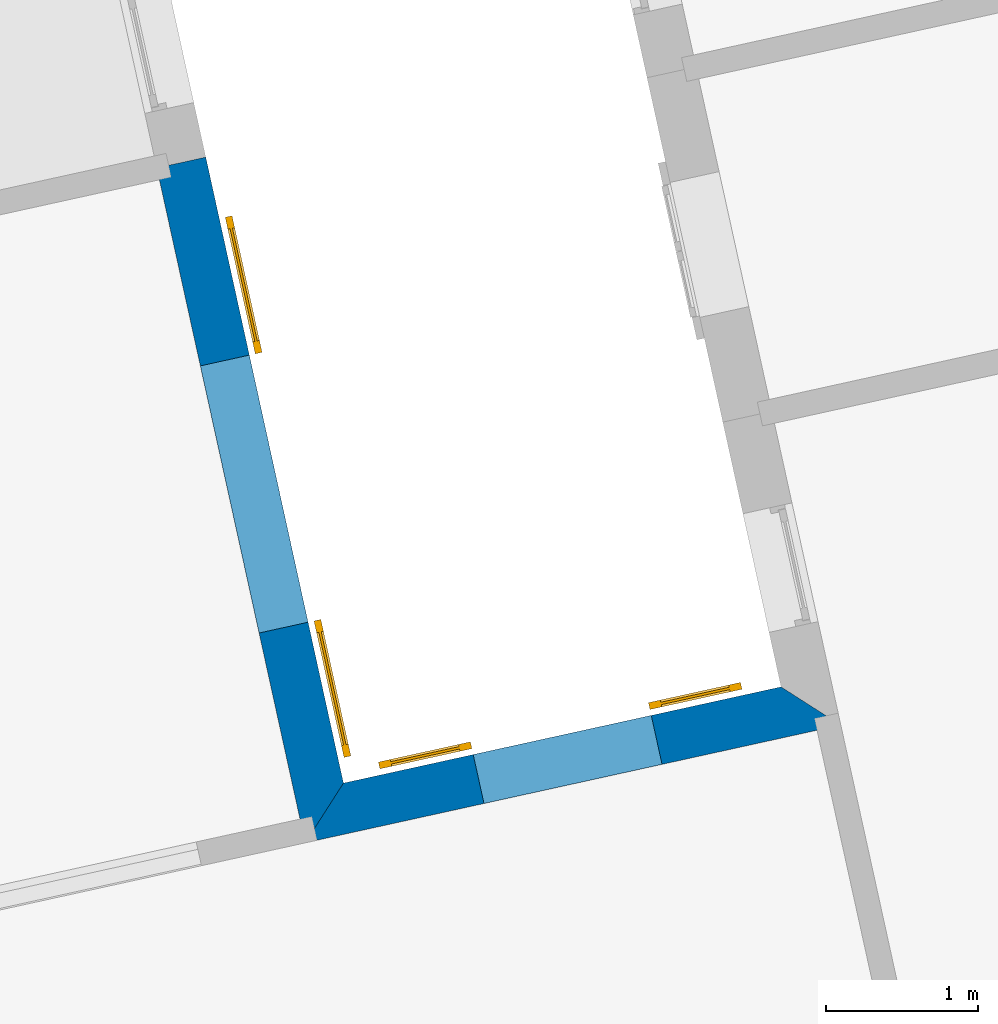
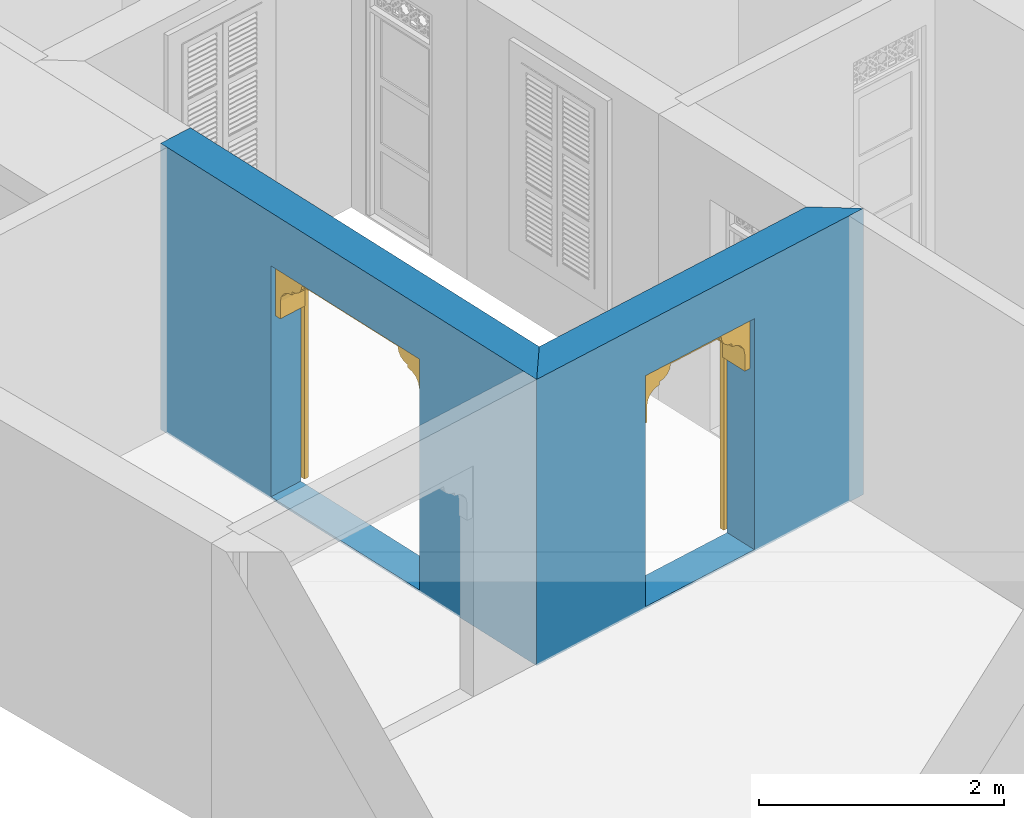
# One storey, part 2 of 14: 2 doors, 2 walls, 2 openings.
"""IFC4 building model written with IfcOpenShell, lengths in metres."""

from ifc_helpers import new_model, si_unit, frame, origin, origin_with_axes, place, context, subcontext, project, spatial, polyline, outline, extrude, faceted_brep, source, transform, mapped, material, layer, layer_set, layer_usage, type_object, type_shapes, element, fill, save


model = new_model("IFC4")

# Units and contexts
model_context = context("Model", 3, world=origin_with_axes())
body_context = subcontext(model_context, "Body", "Model", "MODEL_VIEW")
ifc_project = project(units=[si_unit("PLANEANGLEUNIT", "RADIAN"), si_unit("MASSUNIT", "GRAM", prefix="KILO"), si_unit("FORCEUNIT", "NEWTON", prefix="KILO"), si_unit("LENGTHUNIT", "METRE"), si_unit("AREAUNIT", "SQUARE_METRE"), si_unit("VOLUMEUNIT", "CUBIC_METRE")], contexts=[model_context, model_context])

# Site, building, storey
site_placement = place(None, origin_with_axes())
site = spatial("IfcSite", under=ifc_project, at=site_placement, Name="Site plot-2", CompositionType="ELEMENT")
building_placement = place(None, origin_with_axes())
building = spatial("IfcBuilding", under=site, at=building_placement, Name="Building plot-2", CompositionType="ELEMENT")
storey_placement = place(None, origin_with_axes())
storey = spatial("IfcBuildingStorey", under=building, at=storey_placement, Name="plot-2 0", CompositionType="ELEMENT", Elevation=0.0)

# Wall, opening, door
ifc_material = material(Name="Masonry")
ifc_layer = layer(ifc_material, 0.33, ventilated=False)
ifc_layer_set = layer_set([ifc_layer], Name="exterior_0.08_0.25")
ifc_layer_usage = layer_usage(ifc_layer_set, "AXIS2", "POSITIVE", -0.25)
wall_type = type_object("IfcWallType", Name="exterior_0.08_0.25", PredefinedType="SOLIDWALL", material=ifc_layer_set)
wall_1_placement = place(storey_placement, frame((16.7741128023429, 7.45730474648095, 0.0), z_axis=(0.0, 0.0, 1.0), x_axis=(-0.976656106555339, -0.214808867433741, 0.0)))
wall_1 = element("IfcWall", 1, at=wall_1_placement, inside=storey, type_object=wall_type, material=ifc_layer_usage, Name="exterior", context=body_context, shape_type="SweptSolid", body=[
    extrude(outline(polyline([(-0.0800000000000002, 0.0799999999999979), (0.250000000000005, -0.249999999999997), (3.19892127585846, -0.250000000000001), (3.52892127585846, 0.0799999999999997), (-0.0800000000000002, 0.0799999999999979)])), origin_with_axes(), (0.0, 0.0, 1.0), 2.85),
])
opening_1_placement = place(wall_1_placement, frame((1.12446063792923, 0.0, 0.02)))
opening_1 = element("IfcOpeningElement", 2, at=opening_1_placement, cuts=wall_1, Name="My Opening", ObjectType="Opening", context=body_context, shape_type="SweptSolid", body=[
    extrude(outline(polyline([(0.0, -0.27), (1.2, -0.270000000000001), (1.2, 1.1), (-2.22044604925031e-16, 1.1), (0.0, -0.27)])), origin_with_axes(), (0.0, 0.0, 1.0), 2.3),
])
door_type_1 = type_object("IfcDoorType", Name="arch-1200x2300", OperationType="SINGLE_SWING_LEFT", PredefinedType="NOTDEFINED")
shared_shape_1 = source(origin(), body_context, "Body", "Brep", [
    faceted_brep([(-0.08, -0.02, 0.08), (-0.08, -0.02, 0.0), (-0.54, -0.02, 0.0), (-0.54, -0.02, 0.08), (-0.62, -0.02, 0.0), (-0.62, -0.02, 0.08), (-0.54, -0.035, 0.08), (-0.08, -0.035, 0.08), (0.0, -0.02, 0.08), (0.0, -0.02, 0.0), (-0.08, -0.066, 0.0), (-0.54, -0.066, 0.0), (-0.62, -0.066, 0.0), (-0.62, -0.066, 0.08), (-0.54, -0.02, 0.743333), (-0.62, -0.02, 0.743333), (-0.54, -0.035, 0.743333), (-0.08, -0.035, 0.743333), (-0.08, -0.02, 0.743333), (0.0, -0.02, 0.743333), (0.0, -0.066, 0.08), (0.0, -0.066, 0.0), (-0.54, -0.066, 0.08), (-0.08, -0.066, 0.08), (-0.62, -0.066, 0.743333), (-0.54, -0.02, 0.823333), (-0.62, -0.02, 0.823333), (0.0, -0.066, 0.743333), (0.0, -0.02, 0.823333), (-0.08, -0.02, 0.823333), (-0.08, -0.051, 0.08), (-0.54, -0.051, 0.08), (-0.54, -0.066, 0.743333), (-0.62, -0.066, 0.823333), (-0.54, -0.02, 1.486667), (-0.62, -0.02, 1.486667), (0.0, -0.066, 0.823333), (-0.08, -0.066, 0.743333), (0.0, -0.02, 1.486667), (-0.08, -0.02, 1.486667), (-0.08, -0.051, 0.743333), (-0.54, -0.051, 0.743333), (-0.54, -0.066, 0.823333), (-0.62, -0.066, 1.486667), (-0.54, -0.035, 0.823333), (-0.08, -0.035, 0.823333), (-0.54, -0.035, 1.486667), (-0.54, -0.02, 1.566667), (-0.62, -0.02, 1.566667), (0.0, -0.066, 1.486667), (-0.08, -0.066, 0.823333), (-0.08, -0.035, 1.486667), (0.0, -0.02, 1.566667), (-0.08, -0.02, 1.566667), (-0.54, -0.066, 1.486667), (-0.62, -0.066, 1.566667), (-0.54, -0.02, 2.23), (-0.62, -0.02, 2.23), (0.0, -0.066, 1.566667), (-0.08, -0.066, 1.486667), (0.0, -0.02, 2.23), (-0.08, -0.02, 2.23), (-0.08, -0.051, 0.823333), (-0.54, -0.051, 0.823333), (-0.54, -0.051, 1.486667), (-0.54, -0.066, 1.566667), (-0.62, -0.066, 2.23), (-0.54, -0.035, 1.566667), (-0.08, -0.035, 1.566667), (-0.54, -0.035, 2.23), (-0.54, -0.02, 2.31), (-0.62, -0.02, 2.31), (0.0, -0.066, 2.23), (-0.08, -0.066, 1.566667), (-0.08, -0.051, 1.486667), (-0.08, -0.035, 2.23), (0.0, -0.02, 2.31), (-0.08, -0.02, 2.31), (-0.54, -0.066, 2.23), (-0.62, -0.066, 2.31), (-0.54, -0.066, 2.31), (0.0, -0.066, 2.31), (-0.08, -0.066, 2.23), (-0.08, -0.066, 2.31), (-0.08, -0.051, 1.566667), (-0.54, -0.051, 1.566667), (-0.54, -0.051, 2.23), (-0.08, -0.051, 2.23), (1.74, -0.02, 0.08), (1.74, -0.02, 0.0), (1.28, -0.02, 0.0), (1.28, -0.02, 0.08), (1.82, -0.02, 0.08), (1.82, -0.02, 0.0), (1.28, -0.035, 0.08), (1.74, -0.035, 0.08), (1.2, -0.02, 0.0), (1.2, -0.02, 0.08), (1.74, -0.066, 0.0), (1.28, -0.066, 0.0), (1.82, -0.066, 0.08), (1.82, -0.066, 0.0), (1.82, -0.02, 0.743333), (1.74, -0.02, 0.743333), (1.74, -0.035, 0.743333), (1.28, -0.035, 0.743333), (1.28, -0.02, 0.743333), (1.2, -0.02, 0.743333), (1.2, -0.066, 0.0), (1.2, -0.066, 0.08), (1.28, -0.066, 0.08), (1.74, -0.066, 0.08), (1.82, -0.066, 0.743333), (1.82, -0.02, 0.823333), (1.74, -0.02, 0.823333), (1.2, -0.066, 0.743333), (1.28, -0.02, 0.823333), (1.2, -0.02, 0.823333), (1.74, -0.051, 0.08), (1.28, -0.051, 0.08), (1.74, -0.066, 0.743333), (1.82, -0.066, 0.823333), (1.82, -0.02, 1.486667), (1.74, -0.02, 1.486667), (1.2, -0.066, 0.823333), (1.28, -0.066, 0.743333), (1.28, -0.02, 1.486667), (1.2, -0.02, 1.486667), (1.28, -0.051, 0.743333), (1.74, -0.051, 0.743333), (1.74, -0.066, 0.823333), (1.82, -0.066, 1.486667), (1.28, -0.035, 0.823333), (1.74, -0.035, 0.823333), (1.74, -0.035, 1.486667), (1.82, -0.02, 1.566667), (1.74, -0.02, 1.566667), (1.2, -0.066, 1.486667), (1.28, -0.066, 0.823333), (1.28, -0.035, 1.486667), (1.28, -0.02, 1.566667), (1.2, -0.02, 1.566667), (1.74, -0.066, 1.486667), (1.82, -0.066, 1.566667), (1.82, -0.02, 2.23), (1.74, -0.02, 2.23), (1.2, -0.066, 1.566667), (1.28, -0.066, 1.486667), (1.28, -0.02, 2.23), (1.2, -0.02, 2.23), (1.74, -0.051, 0.823333), (1.28, -0.051, 0.823333), (1.74, -0.051, 1.486667), (1.74, -0.066, 1.566667), (1.82, -0.066, 2.23), (1.28, -0.035, 1.566667), (1.74, -0.035, 1.566667), (1.74, -0.035, 2.23), (1.82, -0.02, 2.31), (1.74, -0.02, 2.31), (1.2, -0.066, 2.23), (1.28, -0.066, 1.566667), (1.28, -0.051, 1.486667), (1.28, -0.035, 2.23), (1.28, -0.02, 2.31), (1.2, -0.02, 2.31), (1.74, -0.066, 2.23), (1.82, -0.066, 2.31), (1.74, -0.066, 2.31), (1.2, -0.066, 2.31), (1.28, -0.066, 2.23), (1.28, -0.066, 2.31), (1.74, -0.051, 1.566667), (1.28, -0.051, 1.566667), (1.74, -0.051, 2.23), (1.28, -0.051, 2.23), (1.2, 0.03, 1.78), (1.2, 0.03, 1.95), (1.14, 0.03, 1.95), (1.14, 0.03, 1.78), (1.14, 0.3, 1.95), (1.14, 0.3, 1.78), (1.2, 0.03, 2.12), (1.129, 0.03, 2.004), (1.2, 0.3, 1.78), (1.2, 0.3, 1.95), (1.129, 0.3, 2.004), (1.099, 0.03, 2.049), (1.2, 0.3, 2.12), (1.099, 0.3, 2.049), (1.054, 0.03, 2.079), (1.2, 0.3, 2.29), (1.2, 0.03, 2.29), (1.054, 0.3, 2.079), (1.0, 0.03, 2.09), (1.0, 0.03, 2.12), (0.954, 0.03, 2.129), (0.88, 0.3, 2.29), (0.88, 0.03, 2.29), (1.0, 0.3, 2.12), (0.954, 0.3, 2.129), (1.0, 0.3, 2.09), (0.915, 0.03, 2.155), (0.889, 0.3, 2.194), (0.88, 0.3, 2.24), (0.88, 0.03, 2.24), (0.889, 0.03, 2.194), (0.915, 0.3, 2.155), (0.06, 0.03, 1.78), (0.06, 0.03, 1.95), (0.0, 0.03, 1.95), (0.0, 0.03, 1.78), (0.06, 0.3, 1.78), (0.06, 0.3, 1.95), (0.071, 0.03, 2.004), (0.0, 0.03, 2.12), (0.0, 0.3, 1.95), (0.0, 0.3, 1.78), (0.071, 0.3, 2.004), (0.101, 0.03, 2.049), (0.0, 0.3, 2.12), (0.101, 0.3, 2.049), (0.146, 0.03, 2.079), (0.0, 0.03, 2.29), (0.0, 0.3, 2.29), (0.146, 0.3, 2.079), (0.2, 0.03, 2.12), (0.2, 0.03, 2.09), (0.246, 0.03, 2.129), (0.32, 0.03, 2.29), (0.32, 0.3, 2.29), (0.246, 0.3, 2.129), (0.2, 0.3, 2.12), (0.2, 0.3, 2.09), (0.285, 0.03, 2.155), (0.32, 0.3, 2.24), (0.311, 0.3, 2.194), (0.311, 0.03, 2.194), (0.32, 0.03, 2.24), (0.285, 0.3, 2.155)], [[[0, 1, 2, 3]], [[4, 5, 3, 2]], [[0, 3, 6, 7]], [[1, 0, 8, 9]], [[2, 1, 10, 11]], [[5, 4, 12, 13]], [[14, 3, 5, 15]], [[4, 2, 11, 12]], [[3, 14, 16, 6]], [[6, 16, 17, 7]], [[18, 0, 7, 17]], [[0, 18, 19, 8]], [[9, 8, 20, 21]], [[1, 9, 21, 10]], [[22, 11, 10, 23]], [[13, 12, 11, 22]], [[15, 5, 13, 24]], [[25, 14, 15, 26]], [[14, 18, 17, 16]], [[8, 19, 27, 20]], [[28, 19, 18, 29]], [[23, 10, 21, 20]], [[22, 23, 30, 31]], [[22, 32, 24, 13]], [[26, 15, 24, 33]], [[29, 18, 14, 25]], [[34, 25, 26, 35]], [[19, 28, 36, 27]], [[20, 27, 37, 23]], [[38, 28, 29, 39]], [[23, 37, 40, 30]], [[41, 31, 30, 40]], [[32, 22, 31, 41]], [[32, 42, 33, 24]], [[35, 26, 33, 43]], [[29, 25, 44, 45]], [[25, 34, 46, 44]], [[47, 34, 35, 48]], [[28, 38, 49, 36]], [[27, 36, 50, 37]], [[39, 29, 45, 51]], [[52, 38, 39, 53]], [[37, 32, 41, 40]], [[37, 50, 42, 32]], [[42, 54, 43, 33]], [[48, 35, 43, 55]], [[44, 46, 51, 45]], [[34, 39, 51, 46]], [[34, 47, 53, 39]], [[56, 47, 48, 57]], [[38, 52, 58, 49]], [[36, 49, 59, 50]], [[60, 52, 53, 61]], [[42, 50, 62, 63]], [[54, 42, 63, 64]], [[54, 65, 55, 43]], [[57, 48, 55, 66]], [[53, 47, 67, 68]], [[47, 56, 69, 67]], [[70, 56, 57, 71]], [[52, 60, 72, 58]], [[49, 58, 73, 59]], [[50, 59, 74, 62]], [[61, 53, 68, 75]], [[76, 60, 61, 77]], [[64, 63, 62, 74]], [[59, 54, 64, 74]], [[65, 54, 59, 73]], [[65, 78, 66, 55]], [[71, 57, 66, 79]], [[67, 69, 75, 68]], [[56, 61, 75, 69]], [[77, 61, 56, 70]], [[70, 71, 79, 80]], [[60, 76, 81, 72]], [[58, 72, 82, 73]], [[76, 77, 83, 81]], [[65, 73, 84, 85]], [[78, 65, 85, 86]], [[78, 80, 79, 66]], [[77, 70, 80, 83]], [[72, 81, 83, 82]], [[73, 82, 87, 84]], [[86, 85, 84, 87]], [[82, 78, 86, 87]], [[82, 83, 80, 78]], [[88, 89, 90, 91]], [[89, 88, 92, 93]], [[94, 95, 88, 91]], [[96, 97, 91, 90]], [[98, 99, 90, 89]], [[100, 101, 93, 92]], [[102, 92, 88, 103]], [[101, 98, 89, 93]], [[95, 104, 103, 88]], [[94, 105, 104, 95]], [[105, 94, 91, 106]], [[97, 107, 106, 91]], [[108, 109, 97, 96]], [[99, 108, 96, 90]], [[110, 99, 98, 111]], [[111, 98, 101, 100]], [[112, 100, 92, 102]], [[113, 102, 103, 114]], [[104, 105, 106, 103]], [[109, 115, 107, 97]], [[116, 106, 107, 117]], [[109, 108, 99, 110]], [[118, 119, 110, 111]], [[100, 112, 120, 111]], [[121, 112, 102, 113]], [[114, 103, 106, 116]], [[122, 113, 114, 123]], [[115, 124, 117, 107]], [[110, 125, 115, 109]], [[126, 116, 117, 127]], [[119, 128, 125, 110]], [[128, 119, 118, 129]], [[129, 118, 111, 120]], [[112, 121, 130, 120]], [[131, 121, 113, 122]], [[132, 133, 114, 116]], [[133, 134, 123, 114]], [[135, 122, 123, 136]], [[124, 137, 127, 117]], [[125, 138, 124, 115]], [[139, 132, 116, 126]], [[140, 126, 127, 141]], [[128, 129, 120, 125]], [[120, 130, 138, 125]], [[121, 131, 142, 130]], [[143, 131, 122, 135]], [[132, 139, 134, 133]], [[134, 139, 126, 123]], [[126, 140, 136, 123]], [[144, 135, 136, 145]], [[137, 146, 141, 127]], [[138, 147, 137, 124]], [[148, 140, 141, 149]], [[150, 151, 138, 130]], [[152, 150, 130, 142]], [[131, 143, 153, 142]], [[154, 143, 135, 144]], [[155, 156, 136, 140]], [[156, 157, 145, 136]], [[158, 144, 145, 159]], [[146, 160, 149, 141]], [[147, 161, 146, 137]], [[151, 162, 147, 138]], [[163, 155, 140, 148]], [[164, 148, 149, 165]], [[162, 151, 150, 152]], [[162, 152, 142, 147]], [[161, 147, 142, 153]], [[143, 154, 166, 153]], [[167, 154, 144, 158]], [[155, 163, 157, 156]], [[157, 163, 148, 145]], [[159, 145, 148, 164]], [[168, 167, 158, 159]], [[160, 169, 165, 149]], [[161, 170, 160, 146]], [[169, 171, 164, 165]], [[172, 173, 161, 153]], [[174, 172, 153, 166]], [[154, 167, 168, 166]], [[171, 168, 159, 164]], [[170, 171, 169, 160]], [[173, 175, 170, 161]], [[175, 173, 172, 174]], [[175, 174, 166, 170]], [[166, 168, 171, 170]], [[176, 177, 178, 179]], [[180, 181, 179, 178]], [[177, 182, 183, 178]], [[177, 176, 184, 185]], [[181, 184, 176, 179]], [[181, 180, 185, 184]], [[186, 180, 178, 183]], [[182, 187, 183]], [[182, 177, 185, 188]], [[180, 186, 188, 185]], [[189, 186, 183, 187]], [[182, 190, 187]], [[188, 191, 192, 182]], [[188, 186, 189]], [[193, 189, 187, 190]], [[194, 190, 182, 195]], [[182, 192, 196, 195]], [[192, 191, 197, 198]], [[199, 200, 191, 188]], [[188, 189, 193]], [[201, 193, 190, 194]], [[199, 201, 194, 195]], [[200, 199, 195, 196]], [[192, 202, 196]], [[191, 203, 204, 197]], [[192, 198, 205, 206]], [[207, 191, 200]], [[199, 188, 193, 201]], [[207, 200, 196, 202]], [[192, 206, 202]], [[204, 203, 206, 205]], [[203, 191, 207]], [[203, 207, 202, 206]], [[208, 209, 210, 211]], [[209, 208, 212, 213]], [[209, 214, 215, 210]], [[211, 210, 216, 217]], [[208, 211, 217, 212]], [[217, 216, 213, 212]], [[214, 209, 213, 218]], [[214, 219, 215]], [[220, 216, 210, 215]], [[216, 220, 218, 213]], [[219, 214, 218, 221]], [[219, 222, 215]], [[215, 223, 224, 220]], [[221, 218, 220]], [[222, 219, 221, 225]], [[226, 215, 222, 227]], [[226, 228, 223, 215]], [[229, 230, 224, 223]], [[220, 224, 231, 232]], [[225, 221, 220]], [[227, 222, 225, 233]], [[226, 227, 233, 232]], [[228, 226, 232, 231]], [[228, 234, 223]], [[230, 235, 236, 224]], [[237, 238, 229, 223]], [[231, 224, 239]], [[233, 225, 220, 232]], [[234, 228, 231, 239]], [[234, 237, 223]], [[238, 237, 236, 235]], [[239, 224, 236]], [[237, 234, 239, 236]], [[238, 235, 204, 205]], [[235, 230, 197, 204]], [[229, 238, 205, 198]], [[230, 229, 198, 197]]]),
])
type_shapes(door_type_1, [shared_shape_1])
door_1_placement = place(storey_placement, frame((15.6179030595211, 7.47945777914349, 0.02), z_axis=(0.0, 0.0, 1.0), x_axis=(-1.17198732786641, -0.257770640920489, 0.0)))
door_1 = element("IfcDoor", 3, at=door_1_placement, inside=storey, type_object=door_type_1, Name="living sahn door", OverallHeight=2.3, OverallWidth=1.2, context=body_context, shape_type="MappedRepresentation", body=[
    mapped(shared_shape_1, transform((0.0, 0.0, 0.0), scale=1.0)),
])
fill(opening_1, door_1)

wall_2_placement = place(storey_placement, frame((13.4057027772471, 6.71644587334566, 0.0), z_axis=(0.0, 0.0, 1.0), x_axis=(-0.214808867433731, 0.976656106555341, 0.0)))
wall_2 = element("IfcWall", 4, at=wall_2_placement, inside=storey, type_object=wall_type, material=ifc_layer_usage, Name="exterior", context=body_context, shape_type="SweptSolid", body=[
    extrude(outline(polyline([(-0.0800000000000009, 0.0800000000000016), (0.250000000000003, -0.249999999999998), (4.46826913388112, -0.25), (4.46826913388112, 0.0800000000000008), (-0.0800000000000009, 0.0800000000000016)])), origin_with_axes(), (0.0, 0.0, 1.0), 2.85),
])
opening_2_placement = place(wall_2_placement, frame((1.33413456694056, 0.0, 0.02)))
opening_2 = element("IfcOpeningElement", 5, at=opening_2_placement, cuts=wall_2, Name="My Opening", ObjectType="Opening", context=body_context, shape_type="SweptSolid", body=[
    extrude(outline(polyline([(0.0, -0.27), (1.8, -0.270000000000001), (1.8, 1.1), (-2.22044604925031e-16, 1.1), (0.0, -0.27)])), origin_with_axes(), (0.0, 0.0, 1.0), 2.3),
])
door_type_2 = type_object("IfcDoorType", Name="arch-1800x2300", OperationType="SINGLE_SWING_LEFT", PredefinedType="NOTDEFINED")
shared_shape_2 = source(origin(), body_context, "Body", "Brep", [
    faceted_brep([(-0.08, -0.02, 0.08), (-0.08, -0.02, 0.0), (-0.84, -0.02, 0.0), (-0.84, -0.02, 0.08), (-0.92, -0.02, 0.0), (-0.92, -0.02, 0.08), (-0.84, -0.035, 0.08), (-0.08, -0.035, 0.08), (0.0, -0.02, 0.08), (0.0, -0.02, 0.0), (-0.08, -0.066, 0.0), (-0.84, -0.066, 0.0), (-0.92, -0.066, 0.0), (-0.92, -0.066, 0.08), (-0.84, -0.02, 0.743333), (-0.92, -0.02, 0.743333), (-0.84, -0.035, 0.743333), (-0.08, -0.035, 0.743333), (-0.08, -0.02, 0.743333), (0.0, -0.02, 0.743333), (0.0, -0.066, 0.08), (0.0, -0.066, 0.0), (-0.84, -0.066, 0.08), (-0.08, -0.066, 0.08), (-0.92, -0.066, 0.743333), (-0.84, -0.02, 0.823333), (-0.92, -0.02, 0.823333), (0.0, -0.066, 0.743333), (0.0, -0.02, 0.823333), (-0.08, -0.02, 0.823333), (-0.08, -0.051, 0.08), (-0.84, -0.051, 0.08), (-0.84, -0.066, 0.743333), (-0.92, -0.066, 0.823333), (-0.84, -0.02, 1.486667), (-0.92, -0.02, 1.486667), (0.0, -0.066, 0.823333), (-0.08, -0.066, 0.743333), (0.0, -0.02, 1.486667), (-0.08, -0.02, 1.486667), (-0.08, -0.051, 0.743333), (-0.84, -0.051, 0.743333), (-0.84, -0.066, 0.823333), (-0.92, -0.066, 1.486667), (-0.84, -0.035, 0.823333), (-0.08, -0.035, 0.823333), (-0.84, -0.035, 1.486667), (-0.84, -0.02, 1.566667), (-0.92, -0.02, 1.566667), (0.0, -0.066, 1.486667), (-0.08, -0.066, 0.823333), (-0.08, -0.035, 1.486667), (0.0, -0.02, 1.566667), (-0.08, -0.02, 1.566667), (-0.84, -0.066, 1.486667), (-0.92, -0.066, 1.566667), (-0.84, -0.02, 2.23), (-0.92, -0.02, 2.23), (0.0, -0.066, 1.566667), (-0.08, -0.066, 1.486667), (0.0, -0.02, 2.23), (-0.08, -0.02, 2.23), (-0.08, -0.051, 0.823333), (-0.84, -0.051, 0.823333), (-0.84, -0.051, 1.486667), (-0.84, -0.066, 1.566667), (-0.92, -0.066, 2.23), (-0.84, -0.035, 1.566667), (-0.08, -0.035, 1.566667), (-0.84, -0.035, 2.23), (-0.84, -0.02, 2.31), (-0.92, -0.02, 2.31), (0.0, -0.066, 2.23), (-0.08, -0.066, 1.566667), (-0.08, -0.051, 1.486667), (-0.08, -0.035, 2.23), (0.0, -0.02, 2.31), (-0.08, -0.02, 2.31), (-0.84, -0.066, 2.23), (-0.92, -0.066, 2.31), (-0.84, -0.066, 2.31), (0.0, -0.066, 2.31), (-0.08, -0.066, 2.23), (-0.08, -0.066, 2.31), (-0.08, -0.051, 1.566667), (-0.84, -0.051, 1.566667), (-0.84, -0.051, 2.23), (-0.08, -0.051, 2.23), (2.64, -0.02, 0.08), (2.64, -0.02, 0.0), (1.88, -0.02, 0.0), (1.88, -0.02, 0.08), (2.72, -0.02, 0.08), (2.72, -0.02, 0.0), (1.88, -0.035, 0.08), (2.64, -0.035, 0.08), (1.8, -0.02, 0.0), (1.8, -0.02, 0.08), (2.64, -0.066, 0.0), (1.88, -0.066, 0.0), (2.72, -0.066, 0.08), (2.72, -0.066, 0.0), (2.72, -0.02, 0.743333), (2.64, -0.02, 0.743333), (2.64, -0.035, 0.743333), (1.88, -0.035, 0.743333), (1.88, -0.02, 0.743333), (1.8, -0.02, 0.743333), (1.8, -0.066, 0.0), (1.8, -0.066, 0.08), (1.88, -0.066, 0.08), (2.64, -0.066, 0.08), (2.72, -0.066, 0.743333), (2.72, -0.02, 0.823333), (2.64, -0.02, 0.823333), (1.8, -0.066, 0.743333), (1.88, -0.02, 0.823333), (1.8, -0.02, 0.823333), (2.64, -0.051, 0.08), (1.88, -0.051, 0.08), (2.64, -0.066, 0.743333), (2.72, -0.066, 0.823333), (2.72, -0.02, 1.486667), (2.64, -0.02, 1.486667), (1.8, -0.066, 0.823333), (1.88, -0.066, 0.743333), (1.88, -0.02, 1.486667), (1.8, -0.02, 1.486667), (1.88, -0.051, 0.743333), (2.64, -0.051, 0.743333), (2.64, -0.066, 0.823333), (2.72, -0.066, 1.486667), (1.88, -0.035, 0.823333), (2.64, -0.035, 0.823333), (2.64, -0.035, 1.486667), (2.72, -0.02, 1.566667), (2.64, -0.02, 1.566667), (1.8, -0.066, 1.486667), (1.88, -0.066, 0.823333), (1.88, -0.035, 1.486667), (1.88, -0.02, 1.566667), (1.8, -0.02, 1.566667), (2.64, -0.066, 1.486667), (2.72, -0.066, 1.566667), (2.72, -0.02, 2.23), (2.64, -0.02, 2.23), (1.8, -0.066, 1.566667), (1.88, -0.066, 1.486667), (1.88, -0.02, 2.23), (1.8, -0.02, 2.23), (2.64, -0.051, 0.823333), (1.88, -0.051, 0.823333), (2.64, -0.051, 1.486667), (2.64, -0.066, 1.566667), (2.72, -0.066, 2.23), (1.88, -0.035, 1.566667), (2.64, -0.035, 1.566667), (2.64, -0.035, 2.23), (2.72, -0.02, 2.31), (2.64, -0.02, 2.31), (1.8, -0.066, 2.23), (1.88, -0.066, 1.566667), (1.88, -0.051, 1.486667), (1.88, -0.035, 2.23), (1.88, -0.02, 2.31), (1.8, -0.02, 2.31), (2.64, -0.066, 2.23), (2.72, -0.066, 2.31), (2.64, -0.066, 2.31), (1.8, -0.066, 2.31), (1.88, -0.066, 2.23), (1.88, -0.066, 2.31), (2.64, -0.051, 1.566667), (1.88, -0.051, 1.566667), (2.64, -0.051, 2.23), (1.88, -0.051, 2.23), (1.8, 0.03, 1.78), (1.8, 0.03, 1.95), (1.74, 0.03, 1.95), (1.74, 0.03, 1.78), (1.74, 0.3, 1.95), (1.74, 0.3, 1.78), (1.8, 0.03, 2.12), (1.729, 0.03, 2.004), (1.8, 0.3, 1.78), (1.8, 0.3, 1.95), (1.729, 0.3, 2.004), (1.699, 0.03, 2.049), (1.8, 0.3, 2.12), (1.699, 0.3, 2.049), (1.654, 0.03, 2.079), (1.8, 0.3, 2.29), (1.8, 0.03, 2.29), (1.654, 0.3, 2.079), (1.6, 0.03, 2.09), (1.6, 0.03, 2.12), (1.554, 0.03, 2.129), (1.48, 0.3, 2.29), (1.48, 0.03, 2.29), (1.6, 0.3, 2.12), (1.554, 0.3, 2.129), (1.6, 0.3, 2.09), (1.515, 0.03, 2.155), (1.489, 0.3, 2.194), (1.48, 0.3, 2.24), (1.48, 0.03, 2.24), (1.489, 0.03, 2.194), (1.515, 0.3, 2.155), (0.06, 0.03, 1.78), (0.06, 0.03, 1.95), (0.0, 0.03, 1.95), (0.0, 0.03, 1.78), (0.06, 0.3, 1.78), (0.06, 0.3, 1.95), (0.071, 0.03, 2.004), (0.0, 0.03, 2.12), (0.0, 0.3, 1.95), (0.0, 0.3, 1.78), (0.071, 0.3, 2.004), (0.101, 0.03, 2.049), (0.0, 0.3, 2.12), (0.101, 0.3, 2.049), (0.146, 0.03, 2.079), (0.0, 0.03, 2.29), (0.0, 0.3, 2.29), (0.146, 0.3, 2.079), (0.2, 0.03, 2.12), (0.2, 0.03, 2.09), (0.246, 0.03, 2.129), (0.32, 0.03, 2.29), (0.32, 0.3, 2.29), (0.246, 0.3, 2.129), (0.2, 0.3, 2.12), (0.2, 0.3, 2.09), (0.285, 0.03, 2.155), (0.32, 0.3, 2.24), (0.311, 0.3, 2.194), (0.311, 0.03, 2.194), (0.32, 0.03, 2.24), (0.285, 0.3, 2.155)], [[[0, 1, 2, 3]], [[4, 5, 3, 2]], [[0, 3, 6, 7]], [[1, 0, 8, 9]], [[2, 1, 10, 11]], [[5, 4, 12, 13]], [[14, 3, 5, 15]], [[4, 2, 11, 12]], [[3, 14, 16, 6]], [[6, 16, 17, 7]], [[18, 0, 7, 17]], [[0, 18, 19, 8]], [[9, 8, 20, 21]], [[1, 9, 21, 10]], [[22, 11, 10, 23]], [[13, 12, 11, 22]], [[15, 5, 13, 24]], [[25, 14, 15, 26]], [[14, 18, 17, 16]], [[8, 19, 27, 20]], [[28, 19, 18, 29]], [[23, 10, 21, 20]], [[22, 23, 30, 31]], [[22, 32, 24, 13]], [[26, 15, 24, 33]], [[29, 18, 14, 25]], [[34, 25, 26, 35]], [[19, 28, 36, 27]], [[20, 27, 37, 23]], [[38, 28, 29, 39]], [[23, 37, 40, 30]], [[41, 31, 30, 40]], [[32, 22, 31, 41]], [[32, 42, 33, 24]], [[35, 26, 33, 43]], [[29, 25, 44, 45]], [[25, 34, 46, 44]], [[47, 34, 35, 48]], [[28, 38, 49, 36]], [[27, 36, 50, 37]], [[39, 29, 45, 51]], [[52, 38, 39, 53]], [[37, 32, 41, 40]], [[37, 50, 42, 32]], [[42, 54, 43, 33]], [[48, 35, 43, 55]], [[44, 46, 51, 45]], [[34, 39, 51, 46]], [[34, 47, 53, 39]], [[56, 47, 48, 57]], [[38, 52, 58, 49]], [[36, 49, 59, 50]], [[60, 52, 53, 61]], [[42, 50, 62, 63]], [[54, 42, 63, 64]], [[54, 65, 55, 43]], [[57, 48, 55, 66]], [[53, 47, 67, 68]], [[47, 56, 69, 67]], [[70, 56, 57, 71]], [[52, 60, 72, 58]], [[49, 58, 73, 59]], [[50, 59, 74, 62]], [[61, 53, 68, 75]], [[76, 60, 61, 77]], [[64, 63, 62, 74]], [[59, 54, 64, 74]], [[65, 54, 59, 73]], [[65, 78, 66, 55]], [[71, 57, 66, 79]], [[67, 69, 75, 68]], [[56, 61, 75, 69]], [[77, 61, 56, 70]], [[70, 71, 79, 80]], [[60, 76, 81, 72]], [[58, 72, 82, 73]], [[76, 77, 83, 81]], [[65, 73, 84, 85]], [[78, 65, 85, 86]], [[78, 80, 79, 66]], [[77, 70, 80, 83]], [[72, 81, 83, 82]], [[73, 82, 87, 84]], [[86, 85, 84, 87]], [[82, 78, 86, 87]], [[82, 83, 80, 78]], [[88, 89, 90, 91]], [[89, 88, 92, 93]], [[94, 95, 88, 91]], [[96, 97, 91, 90]], [[98, 99, 90, 89]], [[100, 101, 93, 92]], [[102, 92, 88, 103]], [[101, 98, 89, 93]], [[95, 104, 103, 88]], [[94, 105, 104, 95]], [[105, 94, 91, 106]], [[97, 107, 106, 91]], [[108, 109, 97, 96]], [[99, 108, 96, 90]], [[110, 99, 98, 111]], [[111, 98, 101, 100]], [[112, 100, 92, 102]], [[113, 102, 103, 114]], [[104, 105, 106, 103]], [[109, 115, 107, 97]], [[116, 106, 107, 117]], [[109, 108, 99, 110]], [[118, 119, 110, 111]], [[100, 112, 120, 111]], [[121, 112, 102, 113]], [[114, 103, 106, 116]], [[122, 113, 114, 123]], [[115, 124, 117, 107]], [[110, 125, 115, 109]], [[126, 116, 117, 127]], [[119, 128, 125, 110]], [[128, 119, 118, 129]], [[129, 118, 111, 120]], [[112, 121, 130, 120]], [[131, 121, 113, 122]], [[132, 133, 114, 116]], [[133, 134, 123, 114]], [[135, 122, 123, 136]], [[124, 137, 127, 117]], [[125, 138, 124, 115]], [[139, 132, 116, 126]], [[140, 126, 127, 141]], [[128, 129, 120, 125]], [[120, 130, 138, 125]], [[121, 131, 142, 130]], [[143, 131, 122, 135]], [[132, 139, 134, 133]], [[134, 139, 126, 123]], [[126, 140, 136, 123]], [[144, 135, 136, 145]], [[137, 146, 141, 127]], [[138, 147, 137, 124]], [[148, 140, 141, 149]], [[150, 151, 138, 130]], [[152, 150, 130, 142]], [[131, 143, 153, 142]], [[154, 143, 135, 144]], [[155, 156, 136, 140]], [[156, 157, 145, 136]], [[158, 144, 145, 159]], [[146, 160, 149, 141]], [[147, 161, 146, 137]], [[151, 162, 147, 138]], [[163, 155, 140, 148]], [[164, 148, 149, 165]], [[162, 151, 150, 152]], [[162, 152, 142, 147]], [[161, 147, 142, 153]], [[143, 154, 166, 153]], [[167, 154, 144, 158]], [[155, 163, 157, 156]], [[157, 163, 148, 145]], [[159, 145, 148, 164]], [[168, 167, 158, 159]], [[160, 169, 165, 149]], [[161, 170, 160, 146]], [[169, 171, 164, 165]], [[172, 173, 161, 153]], [[174, 172, 153, 166]], [[154, 167, 168, 166]], [[171, 168, 159, 164]], [[170, 171, 169, 160]], [[173, 175, 170, 161]], [[175, 173, 172, 174]], [[175, 174, 166, 170]], [[166, 168, 171, 170]], [[176, 177, 178, 179]], [[180, 181, 179, 178]], [[177, 182, 183, 178]], [[177, 176, 184, 185]], [[181, 184, 176, 179]], [[181, 180, 185, 184]], [[186, 180, 178, 183]], [[182, 187, 183]], [[182, 177, 185, 188]], [[180, 186, 188, 185]], [[189, 186, 183, 187]], [[182, 190, 187]], [[188, 191, 192, 182]], [[188, 186, 189]], [[193, 189, 187, 190]], [[194, 190, 182, 195]], [[182, 192, 196, 195]], [[192, 191, 197, 198]], [[199, 200, 191, 188]], [[188, 189, 193]], [[201, 193, 190, 194]], [[199, 201, 194, 195]], [[200, 199, 195, 196]], [[192, 202, 196]], [[191, 203, 204, 197]], [[192, 198, 205, 206]], [[207, 191, 200]], [[199, 188, 193, 201]], [[207, 200, 196, 202]], [[192, 206, 202]], [[204, 203, 206, 205]], [[203, 191, 207]], [[203, 207, 202, 206]], [[208, 209, 210, 211]], [[209, 208, 212, 213]], [[209, 214, 215, 210]], [[211, 210, 216, 217]], [[208, 211, 217, 212]], [[217, 216, 213, 212]], [[214, 209, 213, 218]], [[214, 219, 215]], [[220, 216, 210, 215]], [[216, 220, 218, 213]], [[219, 214, 218, 221]], [[219, 222, 215]], [[215, 223, 224, 220]], [[221, 218, 220]], [[222, 219, 221, 225]], [[226, 215, 222, 227]], [[226, 228, 223, 215]], [[229, 230, 224, 223]], [[220, 224, 231, 232]], [[225, 221, 220]], [[227, 222, 225, 233]], [[226, 227, 233, 232]], [[228, 226, 232, 231]], [[228, 234, 223]], [[230, 235, 236, 224]], [[237, 238, 229, 223]], [[231, 224, 239]], [[233, 225, 220, 232]], [[234, 228, 231, 239]], [[234, 237, 223]], [[238, 237, 236, 235]], [[239, 224, 236]], [[237, 234, 239, 236]], [[238, 235, 204, 205]], [[235, 230, 197, 204]], [[229, 238, 205, 198]], [[230, 229, 198, 197]]]),
])
type_shapes(door_type_2, [shared_shape_2])
door_2_placement = place(storey_placement, frame((13.3828159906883, 8.07743493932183, 0.02), z_axis=(0.0, 0.0, 1.0), x_axis=(-0.386655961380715, 1.75798099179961, 0.0)))
door_2 = element("IfcDoor", 6, at=door_2_placement, inside=storey, type_object=door_type_2, Name="kitchen sahn door", OverallHeight=2.3, OverallWidth=1.8, context=body_context, shape_type="MappedRepresentation", body=[
    mapped(shared_shape_2, transform((0.0, 0.0, 0.0), scale=1.0)),
])
fill(opening_2, door_2)

save(model, "model.ifc")
